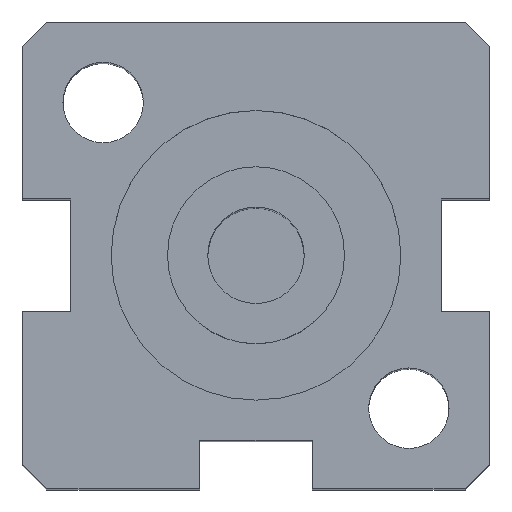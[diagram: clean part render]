
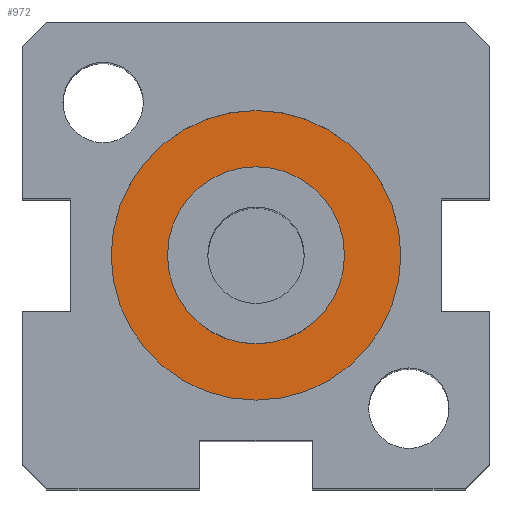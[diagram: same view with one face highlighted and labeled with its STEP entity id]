
A CAD part, top view. The second image highlights one B-rep face of the part: STEP entity #972.
In plain terms, the highlighted planar face has unit normal (0, 0, 1).
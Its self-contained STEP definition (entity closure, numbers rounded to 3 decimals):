
#6 = AXIS2_PLACEMENT_3D ( 'NONE', #617, #807, #522 ) ;
#16 = EDGE_CURVE ( 'NONE', #947, #1065, #924, .T. ) ;
#19 = DIRECTION ( 'NONE',  ( -1., 0., 0. ) ) ;
#26 = CARTESIAN_POINT ( 'NONE',  ( 0., 0., 46.6 ) ) ;
#64 = CIRCLE ( 'NONE', #274, 9. ) ;
#76 = CARTESIAN_POINT ( 'NONE',  ( -9., 0., 46.6 ) ) ;
#128 = DIRECTION ( 'NONE',  ( 1., 0., 0. ) ) ;
#138 = VERTEX_POINT ( 'NONE', #1053 ) ;
#154 = PLANE ( 'NONE',  #6 ) ;
#197 = ORIENTED_EDGE ( 'NONE', *, *, #509, .F. ) ;
#203 = DIRECTION ( 'NONE',  ( 1., 0., 0. ) ) ;
#274 = AXIS2_PLACEMENT_3D ( 'NONE', #304, #921, #128 ) ;
#295 = AXIS2_PLACEMENT_3D ( 'NONE', #26, #1084, #203 ) ;
#304 = CARTESIAN_POINT ( 'NONE',  ( 0., 0., 46.6 ) ) ;
#321 = FACE_OUTER_BOUND ( 'NONE', #328, .T. ) ;
#328 = EDGE_LOOP ( 'NONE', ( #376, #973 ) ) ;
#376 = ORIENTED_EDGE ( 'NONE', *, *, #783, .F. ) ;
#410 = DIRECTION ( 'NONE',  ( -1., 0., 0. ) ) ;
#424 = CARTESIAN_POINT ( 'NONE',  ( 9., 0., 46.6 ) ) ;
#434 = AXIS2_PLACEMENT_3D ( 'NONE', #1116, #770, #410 ) ;
#462 = ORIENTED_EDGE ( 'NONE', *, *, #547, .F. ) ;
#509 = EDGE_CURVE ( 'NONE', #658, #138, #737, .T. ) ;
#522 = DIRECTION ( 'NONE',  ( 1., 0., 0. ) ) ;
#547 = EDGE_CURVE ( 'NONE', #138, #658, #1123, .T. ) ;
#563 = DIRECTION ( 'NONE',  ( 0., 0., 1. ) ) ;
#577 = CARTESIAN_POINT ( 'NONE',  ( -5.5, 0., 46.6 ) ) ;
#617 = CARTESIAN_POINT ( 'NONE',  ( 0., 0., 46.6 ) ) ;
#658 = VERTEX_POINT ( 'NONE', #577 ) ;
#737 = CIRCLE ( 'NONE', #870, 5.5 ) ;
#739 = CARTESIAN_POINT ( 'NONE',  ( 0., 0., 46.6 ) ) ;
#770 = DIRECTION ( 'NONE',  ( 0., 0., -1. ) ) ;
#783 = EDGE_CURVE ( 'NONE', #1065, #947, #64, .T. ) ;
#807 = DIRECTION ( 'NONE',  ( 0., 0., 1. ) ) ;
#870 = AXIS2_PLACEMENT_3D ( 'NONE', #739, #563, #19 ) ;
#921 = DIRECTION ( 'NONE',  ( 0., 0., -1. ) ) ;
#922 = EDGE_LOOP ( 'NONE', ( #462, #197 ) ) ;
#924 = CIRCLE ( 'NONE', #434, 9. ) ;
#947 = VERTEX_POINT ( 'NONE', #76 ) ;
#972 = ADVANCED_FACE ( 'NONE', ( #1115, #321 ), #154, .T. ) ;
#973 = ORIENTED_EDGE ( 'NONE', *, *, #16, .F. ) ;
#1053 = CARTESIAN_POINT ( 'NONE',  ( 5.5, 0., 46.6 ) ) ;
#1065 = VERTEX_POINT ( 'NONE', #424 ) ;
#1084 = DIRECTION ( 'NONE',  ( 0., 0., 1. ) ) ;
#1115 = FACE_BOUND ( 'NONE', #922, .T. ) ;
#1116 = CARTESIAN_POINT ( 'NONE',  ( 0., 0., 46.6 ) ) ;
#1123 = CIRCLE ( 'NONE', #295, 5.5 ) ;
